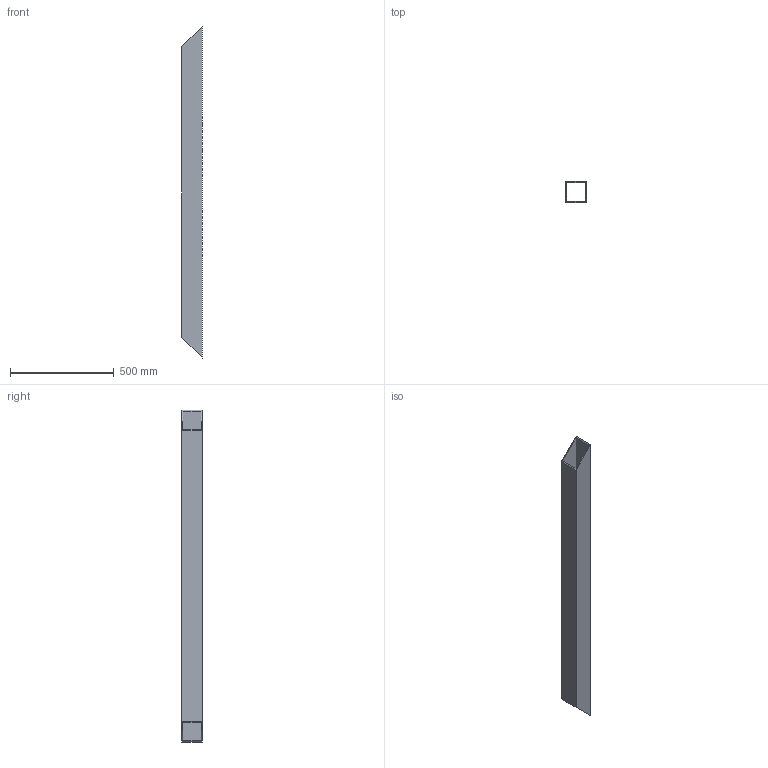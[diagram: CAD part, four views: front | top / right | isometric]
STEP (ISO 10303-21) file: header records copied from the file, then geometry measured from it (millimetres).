
FILE_DESCRIPTION(('Open CASCADE Model'),'2;1');
FILE_NAME('Open CASCADE Shape Model','2026-10-19T10:09:19',('Author'),( 'Open CASCADE'),'Open CASCADE STEP processor 8.0','Open CASCADE 8.0' ,'Unknown');
FILE_SCHEMA(('AUTOMOTIVE_DESIGN { 1 0 10303 214 1 1 1 1 }'));
Length unit declared in the file: millimetre
Products named in the file (1): SHS100x100x5_L1499304_TOLVA 9
Bounding box: 100 x 100 x 1599.3 mm (x, y, z)
Volume: 2848678.1 mm3; surface area: 1144845.2 mm2
Topology: 1 solids, 1 shells, 10 faces, 24 edges, 16 vertices
Faces by surface type: plane 10
Entity records: 614 total; most frequent: CARTESIAN_POINT 99, DIRECTION 94, LINE 72, VECTOR 72, ORIENTED_EDGE 48, PCURVE 48, DEFINITIONAL_REPRESENTATION 48, EDGE_CURVE 24
